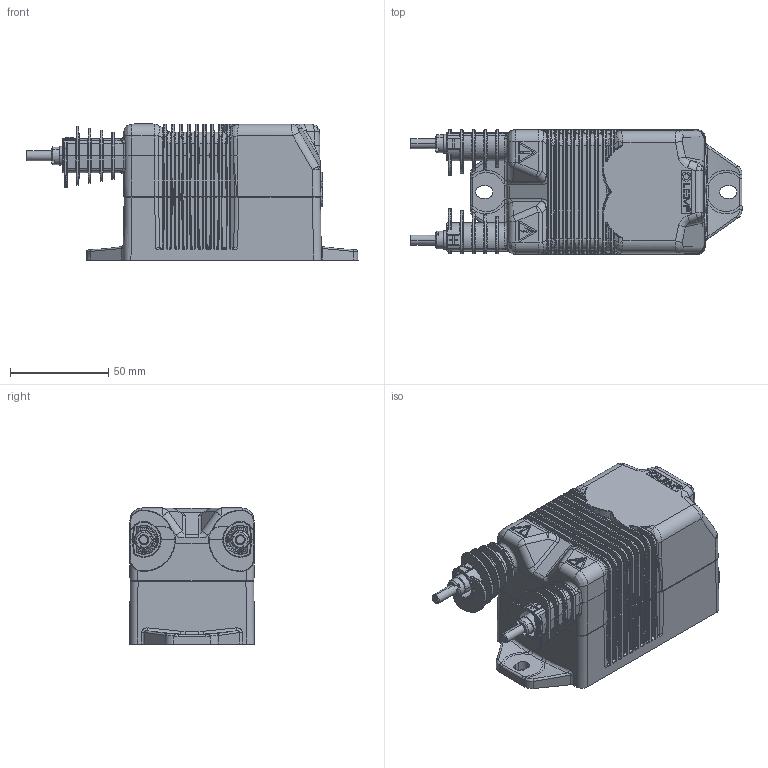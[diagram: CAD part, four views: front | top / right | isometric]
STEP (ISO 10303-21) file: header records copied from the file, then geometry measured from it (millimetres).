
FILE_DESCRIPTION(('Creo Elements/Direct Modeling STEP Export'),'2;1');
FILE_NAME('DVM_BLACKBOX_OUTLINE_TYPE_C.stp','2016-06-28T10:49:26',(''),(''),'PTC Creo Elements/Direct Modeling STEP processor for AP214 (Solid Model)','PTC Creo Elements/Direct Modeling 19.0B 21-Mar-2015 (C) Parametric Technology GmbH','');
FILE_SCHEMA(('AUTOMOTIVE_DESIGN { 1 0 10303 214 1 1 1 1 }'));
Products named in the file (2): BLACKBOX_OUTLINE_C
Assembly tree (1 placements, depth 2):
  BLACKBOX_OUTLINE_C
    BLACKBOX_OUTLINE_C
Bounding box: 168.73 x 63.4 x 69.2 mm (x, y, z)
Volume: 413013.2 mm3; surface area: 66666.6 mm2
Topology: 1 solids, 3 shells, 3313 faces, 8085 edges, 4856 vertices
Faces by surface type: bspline 1207, plane 980, cylinder 911, cone 110, torus 81, sphere 24
Entity records: 196293 total; most frequent: CARTESIAN_POINT 129969, ORIENTED_EDGE 16114, DIRECTION 8554, EDGE_CURVE 8057, VERTEX_POINT 4856, EDGE_LOOP 3427, FACE_OUTER_BOUND 3313, ADVANCED_FACE 3313
